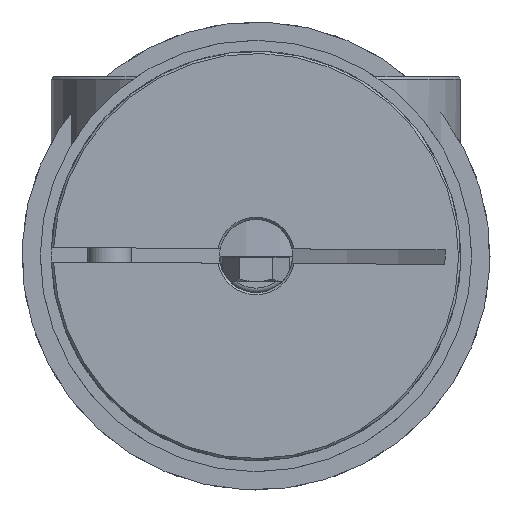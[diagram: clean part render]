
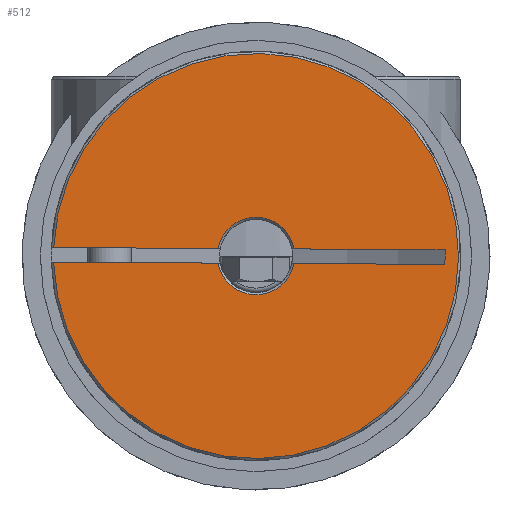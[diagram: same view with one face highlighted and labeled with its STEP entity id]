
A CAD part, left-side view. The second image highlights one B-rep face of the part: STEP entity #512.
In plain terms, the highlighted planar face has unit normal (-1, 0, 0) as drawn and (0, 0, 1) by its records, which use the part's own axes.
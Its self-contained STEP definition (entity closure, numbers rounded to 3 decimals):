
#512 = ADVANCED_FACE( 'NONE', ( #1095 ), #1096, .T. );
#1095 = FACE_OUTER_BOUND( '', #1685, .T. );
#1096 = PLANE( '', #1686 );
#1685 = EDGE_LOOP( '', ( #2854, #2855, #2856, #2857, #2858, #2859, #2860, #2861 ) );
#1686 = AXIS2_PLACEMENT_3D( '', #2862, #2863, #2864 );
#2854 = ORIENTED_EDGE( '', *, *, #3305, .F. );
#2855 = ORIENTED_EDGE( '', *, *, #3258, .T. );
#2856 = ORIENTED_EDGE( '', *, *, #3304, .T. );
#2857 = ORIENTED_EDGE( '', *, *, #3299, .T. );
#2858 = ORIENTED_EDGE( '', *, *, #3301, .T. );
#2859 = ORIENTED_EDGE( '', *, *, #3303, .F. );
#2860 = ORIENTED_EDGE( '', *, *, #3291, .F. );
#2861 = ORIENTED_EDGE( '', *, *, #3294, .T. );
#2862 = CARTESIAN_POINT( '', ( 0., 0., 24.5 ) );
#2863 = DIRECTION( '', ( 0., 0., 1. ) );
#2864 = DIRECTION( '', ( 1., 0., 0. ) );
#3258 = EDGE_CURVE( 'NONE', #3791, #3789, #3792, .T. );
#3291 = EDGE_CURVE( 'NONE', #3850, #3852, #3853, .F. );
#3294 = EDGE_CURVE( 'NONE', #3850, #3855, #3857, .F. );
#3299 = EDGE_CURVE( 'NONE', #3863, #3861, #3864, .F. );
#3301 = EDGE_CURVE( 'NONE', #3861, #3866, #3867, .T. );
#3303 = EDGE_CURVE( 'NONE', #3852, #3866, #3869, .F. );
#3304 = EDGE_CURVE( 'NONE', #3789, #3863, #3870, .T. );
#3305 = EDGE_CURVE( 'NONE', #3791, #3855, #3871, .F. );
#3789 = VERTEX_POINT( 'NONE', #4787 );
#3791 = VERTEX_POINT( 'NONE', #4792 );
#3792 = CIRCLE( '', #4793, 27.7 );
#3850 = VERTEX_POINT( 'NONE', #5011 );
#3852 = VERTEX_POINT( 'NONE', #5016 );
#3853 = LINE( '', #5017, #5018 );
#3855 = VERTEX_POINT( 'NONE', #5020 );
#3857 = CIRCLE( '', #5025, 5.3 );
#3861 = VERTEX_POINT( 'NONE', #5031 );
#3863 = VERTEX_POINT( 'NONE', #5036 );
#3864 = CIRCLE( '', #5037, 5.3 );
#3866 = VERTEX_POINT( 'NONE', #5042 );
#3867 = LINE( '', #5043, #5044 );
#3869 = LINE( '', #5046, #5047 );
#3870 = LINE( '', #5048, #5049 );
#3871 = LINE( '', #5050, #5051 );
#4787 = CARTESIAN_POINT( '', ( 27.682, -1., 24.5 ) );
#4792 = CARTESIAN_POINT( '', ( 27.682, 1., 24.5 ) );
#4793 = AXIS2_PLACEMENT_3D( '', #5681, #5682, #5683 );
#5011 = CARTESIAN_POINT( '', ( -5.205, 1., 24.5 ) );
#5016 = CARTESIAN_POINT( '', ( -25.849, 1., 24.5 ) );
#5017 = CARTESIAN_POINT( '', ( 17., 1., 24.5 ) );
#5018 = VECTOR( '', #5741, 1000. );
#5020 = CARTESIAN_POINT( '', ( 5.205, 1., 24.5 ) );
#5025 = AXIS2_PLACEMENT_3D( '', #5745, #5746, #5747 );
#5031 = CARTESIAN_POINT( '', ( -5.205, -1., 24.5 ) );
#5036 = CARTESIAN_POINT( '', ( 5.205, -1., 24.5 ) );
#5037 = AXIS2_PLACEMENT_3D( '', #5753, #5754, #5755 );
#5042 = CARTESIAN_POINT( '', ( -25.849, -1., 24.5 ) );
#5043 = CARTESIAN_POINT( '', ( 0., -1., 24.5 ) );
#5044 = VECTOR( '', #5756, 1000. );
#5046 = CARTESIAN_POINT( '', ( -25.849, -1., 24.5 ) );
#5047 = VECTOR( '', #5760, 1000. );
#5048 = CARTESIAN_POINT( '', ( 0., -1., 24.5 ) );
#5049 = VECTOR( '', #5761, 1000. );
#5050 = CARTESIAN_POINT( '', ( 17., 1., 24.5 ) );
#5051 = VECTOR( '', #5762, 1000. );
#5681 = CARTESIAN_POINT( '', ( 0., 0., 24.5 ) );
#5682 = DIRECTION( '', ( 0., 0., 1. ) );
#5683 = DIRECTION( '', ( 1., 0., 0. ) );
#5741 = DIRECTION( '', ( 1., 0., 0. ) );
#5745 = CARTESIAN_POINT( '', ( 0., 0., 24.5 ) );
#5746 = DIRECTION( '', ( 0., 0., 1. ) );
#5747 = DIRECTION( '', ( 1., 0., 0. ) );
#5753 = CARTESIAN_POINT( '', ( 0., 0., 24.5 ) );
#5754 = DIRECTION( '', ( 0., 0., 1. ) );
#5755 = DIRECTION( '', ( 1., 0., 0. ) );
#5756 = DIRECTION( '', ( -1., 0., 0. ) );
#5760 = DIRECTION( '', ( 0., 1., 0. ) );
#5761 = DIRECTION( '', ( -1., 0., 0. ) );
#5762 = DIRECTION( '', ( 1., 0., 0. ) );
